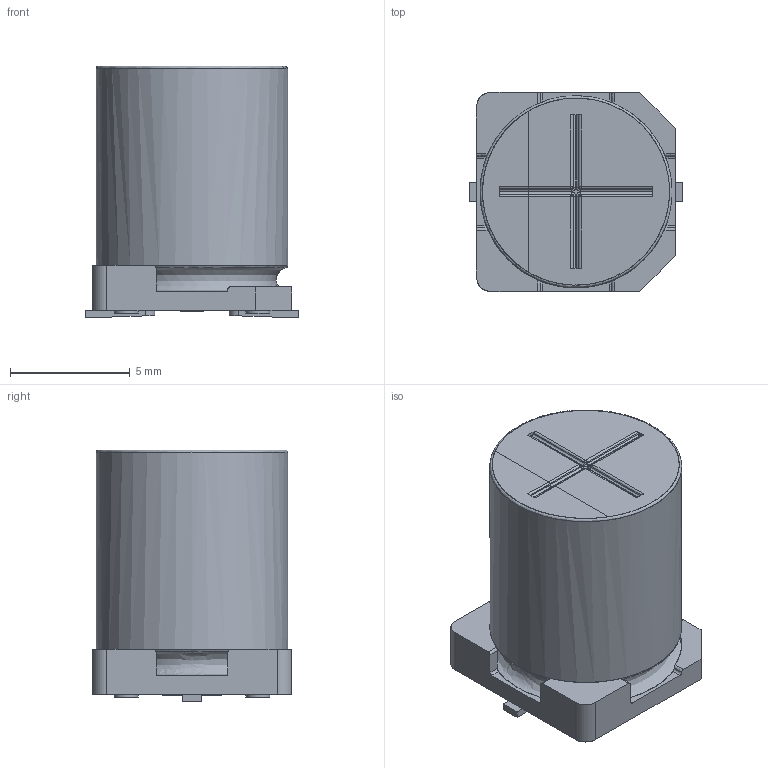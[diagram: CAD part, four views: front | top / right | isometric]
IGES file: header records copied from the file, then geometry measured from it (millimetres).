
Start section: JAMA-IS VERSION  1.0
Bounding box: 8.9 x 8.3 x 10.5 mm (x, y, z)
Surface area: 561.8 mm2 (no closed solid volume)
Topology: 0 solids, 0 shells, 132 faces, 1288 edges, 1270 vertices
Faces by surface type: bspline 132
